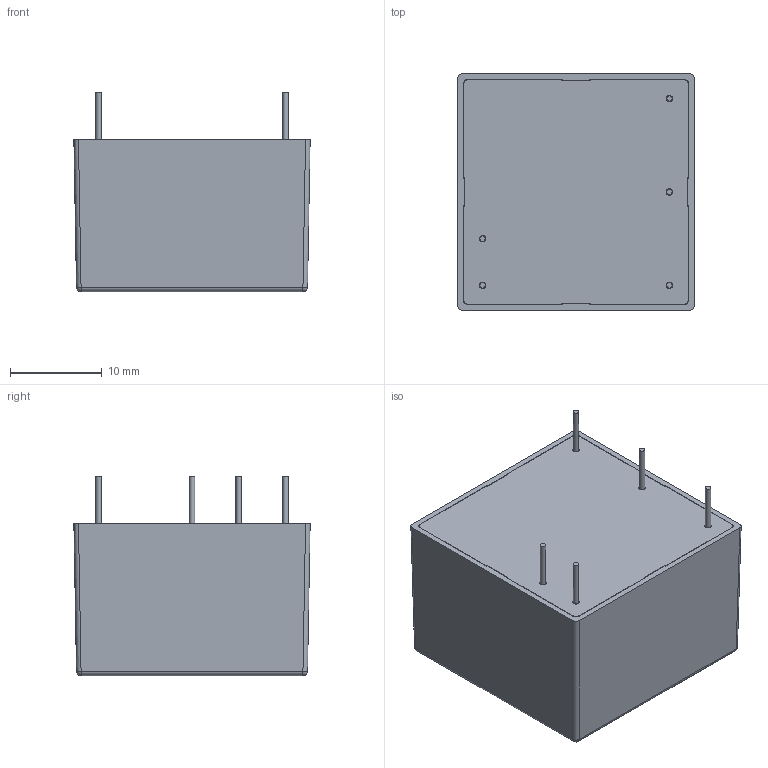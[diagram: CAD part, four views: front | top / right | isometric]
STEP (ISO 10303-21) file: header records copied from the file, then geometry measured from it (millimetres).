
FILE_DESCRIPTION(/* description */ (''),/* implementation_level */ '2;1');
FILE_NAME(/* name */ 'C:\Users\CALLIOPE\Documents\Inventor\AC TO DC\AAF-05(雪)\3D尺寸外觀\型錄用-STEP檔\AAF-03+AAF-05 PCB Mounting.stp',/* time_stamp */ '2015-03-13T10:51:52+08:00',/* author */ ('CALLIOPE'),/* organization */ (''),/* preprocessor_version */ 'ST-DEVELOPER v15.6',/* originating_system */ 'Autodesk Inventor 2015',/* authorisation */ '');
FILE_SCHEMA (('AUTOMOTIVE_DESIGN { 1 0 10303 214 3 1 1 }'));
Length unit declared in the file: millimetre
Products named in the file (3): AAF-03 CASE; AAF-03 BASE; AAF-03+AAF-05 PCB Mounting
Assembly tree (2 placements, depth 2):
  AAF-03+AAF-05 PCB Mounting
    AAF-03 CASE
    AAF-03 BASE
Bounding box: 25.7 x 25.7 x 21.68 mm (x, y, z)
Volume: 10649.8 mm3; surface area: 4294 mm2
Topology: 2 solids, 2 shells, 93 faces, 243 edges, 157 vertices
Faces by surface type: plane 60, cylinder 29, sphere 4
Full cylindrical faces by diameter (mm): 0.6 x5, 0.7 x5
Entity records: 2805 total; most frequent: DIRECTION 478, CARTESIAN_POINT 474, ORIENTED_EDGE 448, EDGE_CURVE 224, LINE 166, VECTOR 166, AXIS2_PLACEMENT_3D 156, VERTEX_POINT 152
